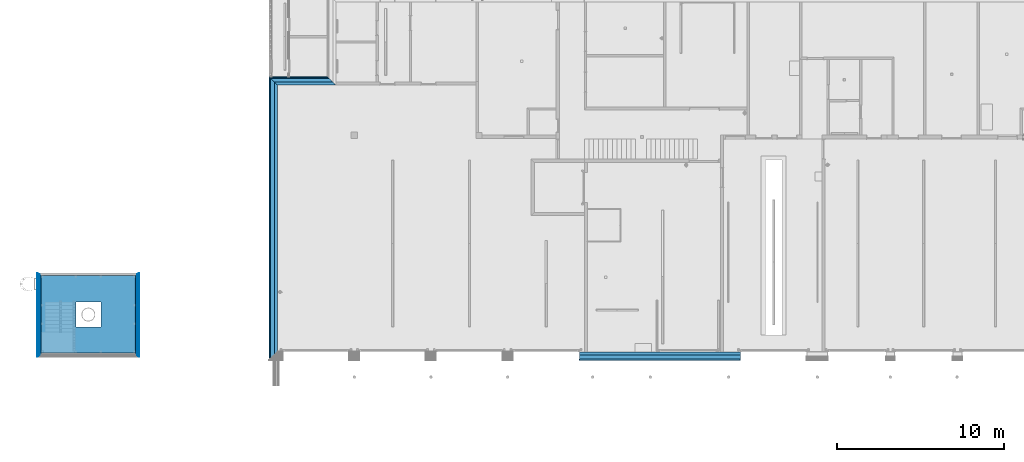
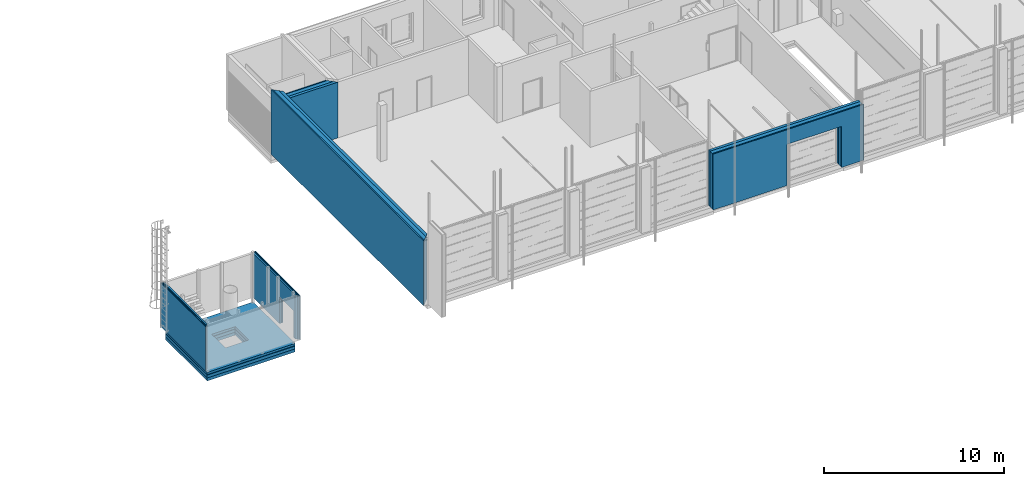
# One storey, part 25 of 112: 23 building element parts, 3 openings, 6 elements without a shape of their own.
"""IFC2X3 building model written with IfcOpenShell, lengths in millimetres."""

import ifcopenshell
import ifcopenshell.guid

model = None  # the IFC model being written
_history = None  # IfcOwnerHistory: only IFC2X3 demands one
_inside = {}  # id of a spatial element -> (the spatial element, [elements in it])
_under = {}  # id of a project, library or spatial element -> (it, [spatial elements below it])
_declared = {}  # id of a project -> (the project, [libraries it declares])
_typed = {}  # id of a type object -> (the type object, [elements of that type])
_made_of = {}  # id of a material, layer set ... -> (it, [elements and type objects made of it])


def new_model(schema):
    """Start an empty IFC model of exactly this schema.

    Asked for "IFC4X3", IfcOpenShell would pick the latest addendum, in which some entities
    have other attributes; the version numbers below select the first issue.
    IFC2X3 requires an IfcOwnerHistory on every rooted entity: one is made here for all.
    """
    global model, _history
    if schema == "IFC4X3":
        model = ifcopenshell.file(schema_version=(4, 3, 0, 0))
    else:
        model = ifcopenshell.file(schema=schema)
    _inside.clear()
    _under.clear()
    _declared.clear()
    _typed.clear()
    _made_of.clear()
    _history = None
    if model.schema == "IFC2X3":
        org = make("IfcOrganization", Name="unknown")
        user = make(
            "IfcPersonAndOrganization",
            ThePerson=make("IfcPerson", FamilyName="unknown"),
            TheOrganization=org,
        )
        app = make(
            "IfcApplication",
            ApplicationDeveloper=org,
            Version="unknown",
            ApplicationFullName="unknown",
            ApplicationIdentifier="unknown",
        )
        _history = make(
            "IfcOwnerHistory",
            OwningUser=user,
            OwningApplication=app,
            ChangeAction="ADDED",
            CreationDate=0,
        )
    return model


def make(cls, **values):
    """One entity of the class cls with the attributes given. An attribute that is None is left unset."""
    return model.create_entity(
        cls, **{name: value for name, value in values.items() if value is not None}
    )


def entity(cls, *values):
    """Any entity or typed value of the class cls, its attributes in the order of the schema. None: left unset."""
    e = model.create_entity(cls)
    for i, value in enumerate(values):
        if value is not None:
            e[i] = value
    return e


def rooted(cls, **values):
    """An entity with a GlobalId (a new one), such as an element, a storey or a relation."""
    return make(cls, GlobalId=ifcopenshell.guid.new(), OwnerHistory=_history, **values)


def si_unit(unit_type, name, prefix=None):
    """IfcSIUnit, for example si_unit("LENGTHUNIT", "METRE", prefix="MILLI")."""
    return make("IfcSIUnit", UnitType=unit_type, Prefix=prefix, Name=name)


def converted_unit(unit_type, name, factor, base, dimensions=None, offset=None):
    """IfcConversionBasedUnit, such as the inch: factor (a typed value) times the base unit."""
    return make(
        "IfcConversionBasedUnit"
        if offset is None
        else "IfcConversionBasedUnitWithOffset",
        ConversionOffset=offset,
        Dimensions=None
        if dimensions is None
        else entity("IfcDimensionalExponents", *dimensions),
        UnitType=unit_type,
        Name=name,
        ConversionFactor=make(
            "IfcMeasureWithUnit", ValueComponent=factor, UnitComponent=base
        ),
    )


def derived_unit(unit_type, elements):
    """IfcDerivedUnit: a product of units, each with its exponent."""
    return make(
        "IfcDerivedUnit",
        Elements=[
            make("IfcDerivedUnitElement", Unit=unit, Exponent=power)
            for unit, power in elements
        ],
        UnitType=unit_type,
    )


def money_unit(currency):
    """IfcMonetaryUnit."""
    return make("IfcMonetaryUnit", Currency=currency)


def assignment(units):
    """IfcUnitAssignment: the units of a project."""
    return None if units is None else make("IfcUnitAssignment", Units=units)


def point(xyz):
    """IfcCartesianPoint."""
    return None if xyz is None else make("IfcCartesianPoint", Coordinates=xyz)


def direction(xyz):
    """IfcDirection."""
    return None if xyz is None else make("IfcDirection", DirectionRatios=xyz)


def frame(location, z_axis=None, x_axis=None):
    """IfcAxis2Placement3D, a coordinate frame: its origin and axes. An axis left out is left unset."""
    return make(
        "IfcAxis2Placement3D",
        Location=point(location),
        Axis=direction(z_axis),
        RefDirection=direction(x_axis),
    )


def frame_2d(location, x_axis=None):
    """IfcAxis2Placement2D, a coordinate frame in the plane: its origin and x axis."""
    return make(
        "IfcAxis2Placement2D", Location=point(location), RefDirection=direction(x_axis)
    )


def origin_with_axes():
    """The frame at (0, 0, 0) with the z axis (0, 0, 1) and the x axis (1, 0, 0) written out."""
    return frame((0.0, 0.0, 0.0), z_axis=(0.0, 0.0, 1.0), x_axis=(1.0, 0.0, 0.0))


def origin_2d_with_axis():
    """The frame at (0, 0) in the plane with the x axis (1, 0) written out."""
    return frame_2d((0.0, 0.0), x_axis=(1.0, 0.0))


def place(relative_to, where):
    """IfcLocalPlacement: puts the frame where relative to a parent placement (None: the world)."""
    return make(
        "IfcLocalPlacement", PlacementRelTo=relative_to, RelativePlacement=where
    )


def context(
    kind, dimensions, precision=None, world=None, true_north=None, identifier=None
):
    """IfcGeometricRepresentationContext, for example the 3D "Model" context."""
    return make(
        "IfcGeometricRepresentationContext",
        ContextIdentifier=identifier,
        ContextType=kind,
        CoordinateSpaceDimension=dimensions,
        Precision=precision,
        WorldCoordinateSystem=world,
        TrueNorth=true_north,
    )


def subcontext(parent, identifier, kind, view, scale=None):
    """IfcGeometricRepresentationSubContext, for example "Body" below "Model"."""
    return make(
        "IfcGeometricRepresentationSubContext",
        ContextIdentifier=identifier,
        ContextType=kind,
        ParentContext=parent,
        TargetScale=scale,
        TargetView=view,
    )


def project(units=None, contexts=None):
    """IfcProject with its units and contexts."""
    return rooted(
        "IfcProject",
        Name="project",
        RepresentationContexts=contexts,
        UnitsInContext=assignment(units),
    )


def spatial(cls, under=None, at=None, **own):
    """A site, building, storey or space (cls), placed at a placement, below another one or the project."""
    s = rooted(cls, ObjectPlacement=at, **own)
    if under is not None:
        _under.setdefault(under.id(), (under, []))[1].append(s)
    return s


def polyline(points):
    """IfcPolyline through the points."""
    return make("IfcPolyline", Points=[point(p) for p in points])


def profile(cls, at=None, kind="AREA", **sizes):
    """A parametric profile (cls). Its sizes go by their IFC names, for example OverallWidth=200.0."""
    return make(cls, ProfileType=kind, Position=at, **sizes)


def rectangle(**sizes):
    """IfcRectangleProfileDef."""
    return profile("IfcRectangleProfileDef", **sizes)


def outline(outer, holes=None, kind="AREA"):
    """IfcArbitraryClosedProfileDef: a profile drawn as a closed curve; with holes, ...WithVoids."""
    if holes is None:
        return make("IfcArbitraryClosedProfileDef", ProfileType=kind, OuterCurve=outer)
    return make(
        "IfcArbitraryProfileDefWithVoids",
        ProfileType=kind,
        OuterCurve=outer,
        InnerCurves=holes,
    )


def extrude(swept, where, along, depth):
    """IfcExtrudedAreaSolid: the profile swept, set in the frame where, extruded along a direction by depth."""
    return make(
        "IfcExtrudedAreaSolid",
        SweptArea=swept,
        Position=where,
        ExtrudedDirection=direction(along),
        Depth=depth,
    )


def shape(context_of_items, identifier, shape_type, items):
    """IfcShapeRepresentation: the items that make up one representation, for example the "Body"."""
    return make(
        "IfcShapeRepresentation",
        ContextOfItems=context_of_items,
        RepresentationIdentifier=identifier,
        RepresentationType=shape_type,
        Items=items,
    )


def material(Name=None, Category=None):
    """IfcMaterial."""
    return make("IfcMaterial", Name=Name, Category=Category)


def made_of(thing, what):
    """Note that an element or type object is made of a material, layer set ...; save() writes the relation."""
    if what is not None:
        _made_of.setdefault(what.id(), (what, []))[1].append(thing)
    return thing


def type_object(cls, material=None, **own):
    """A type object (cls), such as IfcWallType, which elements share."""
    return made_of(rooted(cls, **own), material)


def element(
    cls,
    number,
    at=None,
    inside=None,
    cuts=None,
    type_object=None,
    material=None,
    context=None,
    identifier="Body",
    shape_type=None,
    held_by="IfcProductDefinitionShape",
    body=None,
    shapes=None,
    **own,
):
    """One element of the class cls, such as IfcWall. Its Tag is "e" and its number.

    at: its placement. inside: the storey or other place that contains it. cuts: it is an
    opening in that element (IfcRelVoidsElement). A single representation is given by context,
    identifier, shape_type and body (its items); several are given by shapes. held_by: the class
    of the entity that holds the representations. save() writes the other relations.
    """
    e = rooted(cls, Tag="e%d" % number, ObjectPlacement=at, **own)
    if body is not None:
        shapes = [shape(context, identifier, shape_type, body)]
    if shapes is not None:
        e.Representation = make(held_by, Representations=shapes)
    if inside is not None:
        _inside.setdefault(inside.id(), (inside, []))[1].append(e)
    if cuts is not None:
        rooted(
            "IfcRelVoidsElement", RelatingBuildingElement=cuts, RelatedOpeningElement=e
        )
    if type_object is not None:
        _typed.setdefault(type_object.id(), (type_object, []))[1].append(e)
    return made_of(e, material)


def aggregate(whole, parts):
    """IfcRelAggregates: a whole, such as a stair, and the parts it consists of."""
    return rooted("IfcRelAggregates", RelatingObject=whole, RelatedObjects=parts)


def save(model, path):
    """Write the relations noted so far, then the file.

    IfcRelAggregates (storeys below a building ...), IfcRelContainedInSpatialStructure (elements
    in a storey), IfcRelDefinesByType, IfcRelAssociatesMaterial and IfcRelDeclares: one each for
    every whole, place, type object, material and project.
    """
    for whole, parts in _under.values():
        aggregate(whole, parts)
    for where, things in _inside.values():
        rooted(
            "IfcRelContainedInSpatialStructure",
            RelatedElements=things,
            RelatingStructure=where,
        )
    for kind, things in _typed.values():
        rooted("IfcRelDefinesByType", RelatedObjects=things, RelatingType=kind)
    for what, things in _made_of.values():
        rooted("IfcRelAssociatesMaterial", RelatedObjects=things, RelatingMaterial=what)
    for by, libraries in _declared.values():
        rooted("IfcRelDeclares", RelatingContext=by, RelatedDefinitions=libraries)
    model.write(path)


model = new_model("IFC2X3")

# Units and contexts
model_context = context("Model", 3, precision=0.01, world=origin_with_axes(), true_north=direction((0.0, 1.0)))
body_context = subcontext(model_context, "Body", "Model", "MODEL_VIEW")
ifc_project = project(units=[si_unit("LENGTHUNIT", "METRE", prefix="MILLI"), si_unit("AREAUNIT", "SQUARE_METRE"), si_unit("VOLUMEUNIT", "CUBIC_METRE"), converted_unit("PLANEANGLEUNIT", "DEGREE", entity("IfcPlaneAngleMeasure", 0.0174532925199), si_unit("PLANEANGLEUNIT", "RADIAN"), dimensions=[0, 0, 0, 0, 0, 0, 0]), si_unit("SOLIDANGLEUNIT", "STERADIAN"), money_unit("EUR"), converted_unit("TIMEUNIT", "Year", entity("IfcTimeMeasure", 31556926.0), si_unit("TIMEUNIT", "SECOND"), dimensions=[0, 0, 1, 0, 0, 0, 0]), si_unit("MASSUNIT", "GRAM", prefix="KILO"), si_unit("THERMODYNAMICTEMPERATUREUNIT", "DEGREE_CELSIUS"), si_unit("LUMINOUSINTENSITYUNIT", "LUMEN"), si_unit("ENERGYUNIT", "JOULE", prefix="MEGA"), derived_unit("THERMALCONDUCTANCEUNIT", [(si_unit("POWERUNIT", "WATT"), 1), (si_unit("LENGTHUNIT", "METRE"), -1), (si_unit("THERMODYNAMICTEMPERATUREUNIT", "KELVIN"), -1)]), derived_unit("SPECIFICHEATCAPACITYUNIT", [(si_unit("ENERGYUNIT", "JOULE"), 1), (si_unit("MASSUNIT", "GRAM", prefix="KILO"), -1), (si_unit("THERMODYNAMICTEMPERATUREUNIT", "KELVIN"), -1)]), derived_unit("MASSDENSITYUNIT", [(si_unit("MASSUNIT", "GRAM", prefix="KILO"), 1), (si_unit("VOLUMEUNIT", "CUBIC_METRE"), -1)])], contexts=[model_context])

# Site, building, storey
site_placement = place(None, origin_with_axes())
site = spatial("IfcSite", under=ifc_project, at=site_placement, Name="Politse- ja Piirivalveameti ning Päästeameti ühishoone", CompositionType="ELEMENT")
building_placement = place(site_placement, origin_with_axes())
building = spatial("IfcBuilding", under=site, at=building_placement, Name="Politse- ja Piirivalveameti ning Päästeameti ühishoone", CompositionType="ELEMENT")
storey_placement = place(building_placement, origin_with_axes())
storey = spatial("IfcBuildingStorey", under=building, at=storey_placement, Name="Esimene korrus", CompositionType="ELEMENT", Elevation=0.0)

# Wall, building element parts
wall_type_1 = type_object("IfcWallType", Name="VS-01_välissein 510", PredefinedType="NOTDEFINED")
wall_1_placement = place(storey_placement, frame((0.0, 0.0, 0.0), z_axis=(0.0, 0.0, 1.0), x_axis=(0.0, 1.0, 0.0)))
wall_1 = element("IfcWall", 1, at=wall_1_placement, inside=storey, type_object=wall_type_1, Name="VS-01")
ifc_material_1 = material(Name="KON-04_Betoon - Konstuktsioon")
building_element_part_1_placement = place(wall_1_placement, origin_with_axes())
building_element_part_1 = element("IfcBuildingElementPart", 2, at=building_element_part_1_placement, material=ifc_material_1, Name="KON-04_Betoon - Konstuktsioon", context=body_context, shape_type="SweptSolid", body=[
    extrude(outline(polyline([(0.0, 0.0), (16000.0244444, 0.0), (16180.0244444, 180.0), (-180.0, 180.0), (0.0, 0.0)])), origin_with_axes(), (0.0, 0.0, 1.0), 4400.0),
])
ifc_material_2 = material(Name="SOJ-06_Soojustus - Plastik Kõva")
building_element_part_2_placement = place(wall_1_placement, origin_with_axes())
building_element_part_2 = element("IfcBuildingElementPart", 3, at=building_element_part_2_placement, material=ifc_material_2, Name="SOJ-06_Soojustus - Plastik Kõva", context=body_context, shape_type="SweptSolid", body=[
    extrude(outline(polyline([(-180.0, 180.0), (16180.0244444, 180.0), (16430.0244444, 430.0), (-430.0, 430.0), (-180.0, 180.0)])), origin_with_axes(), (0.0, 0.0, 1.0), 4400.0),
])
building_element_part_3_placement = place(wall_1_placement, origin_with_axes())
building_element_part_3 = element("IfcBuildingElementPart", 4, at=building_element_part_3_placement, material=ifc_material_1, Name="KON-04_Betoon - Konstuktsioon", context=body_context, shape_type="SweptSolid", body=[
    extrude(outline(polyline([(-430.0, 430.0), (16430.0244444, 430.0), (16510.0244444, 510.0), (-510.0, 510.0), (-430.0, 430.0)])), origin_with_axes(), (0.0, 0.0, 1.0), 4400.0),
])
aggregate(wall_1, [building_element_part_1, building_element_part_2, building_element_part_3])

wall_2_placement = place(storey_placement, frame((0.0, 16000.0244444, 0.0), z_axis=(0.0, 0.0, 1.0), x_axis=(1.0, 0.0, 0.0)))
wall_2 = element("IfcWall", 5, at=wall_2_placement, inside=storey, type_object=wall_type_1, Name="VS-01")
building_element_part_4_placement = place(wall_2_placement, origin_with_axes())
building_element_part_4 = element("IfcBuildingElementPart", 6, at=building_element_part_4_placement, material=ifc_material_1, Name="KON-04_Betoon - Konstuktsioon", context=body_context, shape_type="SweptSolid", body=[
    extrude(outline(polyline([(0.0, 0.0), (3500.00534722, 0.0), (3320.00534722, 180.0), (-180.0, 180.0), (0.0, 0.0)])), origin_with_axes(), (0.0, 0.0, 1.0), 3800.0),
])
building_element_part_5_placement = place(wall_2_placement, origin_with_axes())
building_element_part_5 = element("IfcBuildingElementPart", 7, at=building_element_part_5_placement, material=ifc_material_2, Name="SOJ-06_Soojustus - Plastik Kõva", context=body_context, shape_type="SweptSolid", body=[
    extrude(outline(polyline([(-180.0, 180.0), (3320.00534722, 180.0), (3070.00534722, 430.0), (-430.0, 430.0), (-180.0, 180.0)])), origin_with_axes(), (0.0, 0.0, 1.0), 3800.0),
])
building_element_part_6_placement = place(wall_2_placement, origin_with_axes())
building_element_part_6 = element("IfcBuildingElementPart", 8, at=building_element_part_6_placement, material=ifc_material_1, Name="KON-04_Betoon - Konstuktsioon", context=body_context, shape_type="SweptSolid", body=[
    extrude(outline(polyline([(-430.0, 430.0), (3070.00534722, 430.0), (2990.00534722, 510.0), (-510.0, 510.0), (-430.0, 430.0)])), origin_with_axes(), (0.0, 0.0, 1.0), 3800.0),
])
aggregate(wall_2, [building_element_part_4, building_element_part_5, building_element_part_6])

wall_type_2 = type_object("IfcWallType", Name="VS-20_Välissein jarjutustorn 225", PredefinedType="NOTDEFINED")
wall_3_placement = place(storey_placement, frame((-14182.0, 4575.4616888, 300.039365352), z_axis=(0.0, 0.0, 1.0), x_axis=(0.0, -1.0, 0.0)))
wall_3 = element("IfcWall", 9, at=wall_3_placement, inside=storey, type_object=wall_type_2, Name="VS-20")
ifc_material_3 = material(Name="Õhkvahe - Raam")
building_element_part_7_placement = place(wall_3_placement, origin_with_axes())
building_element_part_7 = element("IfcBuildingElementPart", 10, at=building_element_part_7_placement, material=ifc_material_3, Name="Õhkvahe - Raam", context=body_context, shape_type="SweptSolid", body=[
    extrude(outline(polyline([(-66.6666666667, -100.0), (4750.4616888, -100.0), (4650.4616888, 0.0), (0.0, 0.0), (-66.6666666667, -100.0)])), origin_with_axes(), (0.0, 0.0, 1.0), 2999.96065325),
])
ifc_material_4 = material(Name="SKR-05_Vineer")
building_element_part_8_placement = place(wall_3_placement, origin_with_axes())
building_element_part_8 = element("IfcBuildingElementPart", 11, at=building_element_part_8_placement, material=ifc_material_4, Name="SKR-05_Vineer", context=body_context, shape_type="SweptSolid", body=[
    extrude(outline(polyline([(-76.6666666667, -115.0), (4765.4616888, -115.0), (4750.4616888, -100.0), (-66.6666666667, -100.0), (-76.6666666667, -115.0)])), origin_with_axes(), (0.0, 0.0, 1.0), 2999.96065325),
])
ifc_material_5 = material(Name="SKR-01_Õhkvahe - Raam")
building_element_part_9_placement = place(wall_3_placement, origin_with_axes())
building_element_part_9 = element("IfcBuildingElementPart", 12, at=building_element_part_9_placement, material=ifc_material_5, Name="SKR-01_Õhkvahe - Raam", context=body_context, shape_type="SweptSolid", body=[
    extrude(outline(polyline([(-86.6666666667, -130.0), (4780.4616888, -130.0), (4765.4616888, -115.0), (-76.6666666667, -115.0), (-86.6666666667, -130.0)])), origin_with_axes(), (0.0, 0.0, 1.0), 2999.96065325),
])
building_element_part_10_placement = place(wall_3_placement, origin_with_axes())
building_element_part_10 = element("IfcBuildingElementPart", 13, at=building_element_part_10_placement, material=ifc_material_5, Name="SKR-01_Õhkvahe - Raam", context=body_context, shape_type="SweptSolid", body=[
    extrude(outline(polyline([(-120.0, -180.0), (4830.4616888, -180.0), (4780.4616888, -130.0), (-86.6666666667, -130.0), (-120.0, -180.0)])), origin_with_axes(), (0.0, 0.0, 1.0), 2999.96065325),
])
ifc_material_6 = material(Name="SKR-04_Puitplaat")
building_element_part_11_placement = place(wall_3_placement, origin_with_axes())
building_element_part_11 = element("IfcBuildingElementPart", 14, at=building_element_part_11_placement, material=ifc_material_6, Name="SKR-04_Puitplaat", context=body_context, shape_type="SweptSolid", body=[
    extrude(outline(polyline([(-150.0, -225.0), (4875.4616888, -225.0), (4830.4616888, -180.0), (-120.0, -180.0), (-150.0, -225.0)])), origin_with_axes(), (0.0, 0.0, 1.0), 2999.96065325),
])
aggregate(wall_3, [building_element_part_7, building_element_part_8, building_element_part_9, building_element_part_10, building_element_part_11])

# Wall, opening, building element parts
wall_4_placement = place(storey_placement, frame((-8532.0, -75.0, 300.039365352), z_axis=(0.0, 0.0, 1.0), x_axis=(0.0, 1.0, 0.0)))
wall_4 = element("IfcWall", 15, at=wall_4_placement, inside=storey, type_object=wall_type_2, Name="VS-20")
opening_1_placement = place(wall_4_placement, frame((943.714443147, 0.0, -300.039365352), z_axis=(0.0, 0.0, 1.0), x_axis=(1.0, 0.0, 0.0)))
element("IfcOpeningElement", 16, at=opening_1_placement, cuts=wall_4, Name="VU-21", context=body_context, shape_type="SweptSolid", body=[
    extrude(rectangle(XDim=1550.0, YDim=2100.0, at=origin_2d_with_axis()), frame((0.0, 225.0, 1050.0), z_axis=(0.0, -1.0, 0.0), x_axis=(-1.0, 0.0, 0.0)), (0.0, 0.0, 1.0), 675.0),
    extrude(rectangle(XDim=1624.0, YDim=2137.0, at=origin_2d_with_axis()), frame((0.0, 0.0, 1068.5), z_axis=(0.0, -1.0, 0.0), x_axis=(-1.0, 0.0, 0.0)), (0.0, 0.0, -1.0), 225.0),
    extrude(rectangle(XDim=1624.0, YDim=2137.0, at=origin_2d_with_axis()), frame((0.0, -225.0, 1068.5), z_axis=(0.0, 1.0, 0.0), x_axis=(-1.0, 0.0, 0.0)), (0.0, 0.0, -1.0), 225.0),
])
building_element_part_12_placement = place(wall_4_placement, origin_with_axes())
building_element_part_12 = element("IfcBuildingElementPart", 17, at=building_element_part_12_placement, material=ifc_material_3, Name="Õhkvahe - Raam", context=body_context, shape_type="SweptSolid", body=[
    extrude(outline(polyline([(-100.0, -100.0), (4717.12835547, -100.0), (4650.4616888, 0.0), (0.0, 0.0), (-100.0, -100.0)])), origin_with_axes(), (0.0, 0.0, 1.0), 2999.96063465),
])
building_element_part_13_placement = place(wall_4_placement, origin_with_axes())
building_element_part_13 = element("IfcBuildingElementPart", 18, at=building_element_part_13_placement, material=ifc_material_4, Name="SKR-05_Vineer", context=body_context, shape_type="SweptSolid", body=[
    extrude(outline(polyline([(-115.0, -115.0), (4727.12835547, -115.0), (4717.12835547, -100.0), (-100.0, -100.0), (-115.0, -115.0)])), origin_with_axes(), (0.0, 0.0, 1.0), 2999.96063465),
])
building_element_part_14_placement = place(wall_4_placement, origin_with_axes())
building_element_part_14 = element("IfcBuildingElementPart", 19, at=building_element_part_14_placement, material=ifc_material_5, Name="SKR-01_Õhkvahe - Raam", context=body_context, shape_type="SweptSolid", body=[
    extrude(outline(polyline([(-130.0, -130.0), (4737.12835547, -130.0), (4727.12835547, -115.0), (-115.0, -115.0), (-130.0, -130.0)])), origin_with_axes(), (0.0, 0.0, 1.0), 2999.96063465),
])
building_element_part_15_placement = place(wall_4_placement, origin_with_axes())
building_element_part_15 = element("IfcBuildingElementPart", 20, at=building_element_part_15_placement, material=ifc_material_5, Name="SKR-01_Õhkvahe - Raam", context=body_context, shape_type="SweptSolid", body=[
    extrude(outline(polyline([(-180.0, -180.0), (4770.4616888, -180.0), (4737.12835547, -130.0), (-130.0, -130.0), (-180.0, -180.0)])), origin_with_axes(), (0.0, 0.0, 1.0), 2999.96063465),
])
building_element_part_16_placement = place(wall_4_placement, origin_with_axes())
building_element_part_16 = element("IfcBuildingElementPart", 21, at=building_element_part_16_placement, material=ifc_material_6, Name="SKR-04_Puitplaat", context=body_context, shape_type="SweptSolid", body=[
    extrude(outline(polyline([(-225.0, -225.0), (4800.4616888, -225.0), (4770.4616888, -180.0), (-180.0, -180.0), (-225.0, -225.0)])), origin_with_axes(), (0.0, 0.0, 1.0), 2999.96063465),
])
aggregate(wall_4, [building_element_part_12, building_element_part_13, building_element_part_14, building_element_part_15, building_element_part_16])

# Slab, opening, building element parts
slab_type = type_object("IfcSlabType", Name="PP-20_Põrand pinnasel harjutustorn 580", PredefinedType="NOTDEFINED")
slab_placement = place(storey_placement, frame((-8532.0, -75.0, 0.0), z_axis=(0.0, 0.0, 1.0), x_axis=(1.0, 0.0, 0.0)))
slab = element("IfcSlab", 22, at=slab_placement, inside=storey, type_object=slab_type, Name="PP-20", PredefinedType="NOTDEFINED")
opening_2_placement = place(slab_placement, frame((-3574.84938593, 3075.11496748, 0.0), z_axis=(0.0, 0.0, 1.0), x_axis=(0.0, -1.0, 0.0)))
element("IfcOpeningElement", 23, at=opening_2_placement, cuts=slab, Name="Slab Opening", context=body_context, shape_type="SweptSolid", body=[
    extrude(outline(polyline([(0.0, 0.0), (1500.0000133, 0.0), (1500.0000133, 1499.66478751), (9.97417721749e-05, 1500.0515788), (0.0, 0.0)])), frame((0.0, 0.0, -580.0), z_axis=(0.0, 0.0, 1.0), x_axis=(1.0, 0.0, 0.0)), (0.0, 0.0, 1.0), 580.0),
])
ifc_material_7 = material(Name="VKK-02_Liiv")
building_element_part_17_placement = place(slab_placement, origin_with_axes())
building_element_part_17 = element("IfcBuildingElementPart", 24, at=building_element_part_17_placement, material=ifc_material_7, Name="VKK-02_Liiv", context=body_context, shape_type="SweptSolid", body=[
    extrude(outline(polyline([(0.0, 0.0), (0.0, 4650.4616888), (-5650.0, 4650.4616888), (-5650.0, 0.0), (0.0, 0.0)])), frame((0.0, 0.0, -580.0), z_axis=(0.0, 0.0, 1.0), x_axis=(1.0, 0.0, 0.0)), (0.0, 0.0, 1.0), 200.0),
])
ifc_material_8 = material(Name="VKK-03_Kruus")
building_element_part_18_placement = place(slab_placement, origin_with_axes())
building_element_part_18 = element("IfcBuildingElementPart", 25, at=building_element_part_18_placement, material=ifc_material_8, Name="VKK-03_Kruus", context=body_context, shape_type="SweptSolid", body=[
    extrude(outline(polyline([(0.0, 0.0), (0.0, 4650.4616888), (-5650.0, 4650.4616888), (-5650.0, 0.0), (0.0, 0.0)])), frame((0.0, 0.0, -380.0), z_axis=(0.0, 0.0, 1.0), x_axis=(1.0, 0.0, 0.0)), (0.0, 0.0, 1.0), 200.0),
])
building_element_part_19_placement = place(slab_placement, origin_with_axes())
building_element_part_19 = element("IfcBuildingElementPart", 26, at=building_element_part_19_placement, material=ifc_material_7, Name="VKK-02_Liiv", context=body_context, shape_type="SweptSolid", body=[
    extrude(outline(polyline([(0.0, 0.0), (0.0, 4650.4616888), (-5650.0, 4650.4616888), (-5650.0, 0.0), (0.0, 0.0)])), frame((0.0, 0.0, -180.0), z_axis=(0.0, 0.0, 1.0), x_axis=(1.0, 0.0, 0.0)), (0.0, 0.0, 1.0), 30.0),
])
ifc_material_9 = material(Name="SV-03_Plaat - Põrand")
building_element_part_20_placement = place(slab_placement, origin_with_axes())
building_element_part_20 = element("IfcBuildingElementPart", 27, at=building_element_part_20_placement, material=ifc_material_9, Name="SV-03_Plaat - Põrand", context=body_context, shape_type="SweptSolid", body=[
    extrude(outline(polyline([(0.0, 0.0), (0.0, 4650.4616888), (-5650.0, 4650.4616888), (-5650.0, 0.0), (0.0, 0.0)])), frame((0.0, 0.0, -150.0), z_axis=(0.0, 0.0, 1.0), x_axis=(1.0, 0.0, 0.0)), (0.0, 0.0, 1.0), 150.0),
])
aggregate(slab, [building_element_part_17, building_element_part_18, building_element_part_19, building_element_part_20])

# Wall, opening, building element parts
wall_5_placement = place(storey_placement, frame((18099.6782559, 0.0, 0.0), z_axis=(0.0, 0.0, 1.0), x_axis=(1.0, 0.0, 0.0)))
wall_5 = element("IfcWall", 28, at=wall_5_placement, inside=storey, type_object=wall_type_1, Name="VS-01")
opening_3_placement = place(wall_5_placement, frame((6510.24944031, 0.0, 0.0), z_axis=(0.0, 0.0, 1.0), x_axis=(1.0, 0.0, 0.0)))
element("IfcOpeningElement", 29, at=opening_3_placement, cuts=wall_5, Name="TV-01", context=body_context, shape_type="SweptSolid", body=[
    extrude(rectangle(XDim=3500.0, YDim=2800.0, at=origin_2d_with_axis()), frame((0.0, 40.0, 1400.0), z_axis=(0.0, 1.0, 0.0), x_axis=(1.0, 0.0, 0.0)), (0.0, 0.0, -1.0), 1060.0),
    extrude(outline(polyline([(-1750.0, 5600.0), (-1750.0, 2800.0), (1750.0, 2800.0), (1750.0, 5600.0), (-1750.0, 5600.0)])), frame((0.0, 135.0, 0.0), z_axis=(0.0, -1.0, 0.0), x_axis=(1.0, 0.0, 0.0)), (0.0, 0.0, 1.0), 45.0),
    extrude(rectangle(XDim=3500.0, YDim=2800.0, at=origin_2d_with_axis()), frame((0.0, 40.0, 1400.0), z_axis=(0.0, -1.0, 0.0), x_axis=(1.0, 0.0, 0.0)), (0.0, 0.0, -1.0), 550.0),
])
building_element_part_21_placement = place(wall_5_placement, origin_with_axes())
building_element_part_21 = element("IfcBuildingElementPart", 30, at=building_element_part_21_placement, material=ifc_material_1, Name="KON-04_Betoon - Konstuktsioon", context=body_context, shape_type="SweptSolid", body=[
    extrude(outline(polyline([(0.0, -180.0), (9660.02721024, -180.0), (9660.02721024, 0.0), (0.0, 0.0), (0.0, -180.0)])), origin_with_axes(), (0.0, 0.0, 1.0), 3800.0),
])
building_element_part_22_placement = place(wall_5_placement, origin_with_axes())
building_element_part_22 = element("IfcBuildingElementPart", 31, at=building_element_part_22_placement, material=ifc_material_2, Name="SOJ-06_Soojustus - Plastik Kõva", context=body_context, shape_type="SweptSolid", body=[
    extrude(outline(polyline([(0.0, -430.0), (9660.02721024, -430.0), (9660.02721024, -180.0), (0.0, -180.0), (0.0, -430.0)])), origin_with_axes(), (0.0, 0.0, 1.0), 3800.0),
])
building_element_part_23_placement = place(wall_5_placement, origin_with_axes())
building_element_part_23 = element("IfcBuildingElementPart", 32, at=building_element_part_23_placement, material=ifc_material_1, Name="KON-04_Betoon - Konstuktsioon", context=body_context, shape_type="SweptSolid", body=[
    extrude(outline(polyline([(0.0, -510.0), (9660.02721024, -510.0), (9660.02721024, -430.0), (0.0, -430.0), (0.0, -510.0)])), origin_with_axes(), (0.0, 0.0, 1.0), 3800.0),
])
aggregate(wall_5, [building_element_part_21, building_element_part_22, building_element_part_23])

save(model, "model.ifc")
